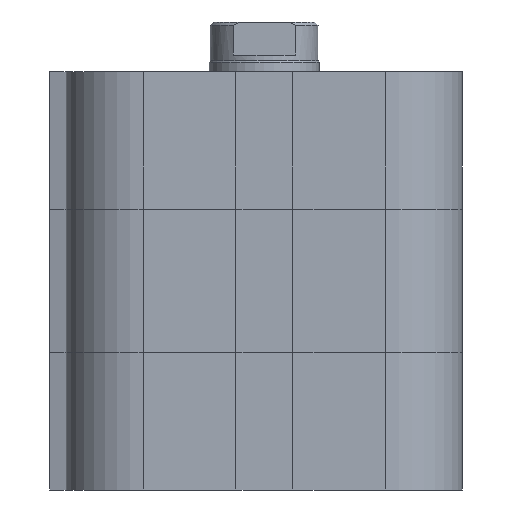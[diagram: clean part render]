
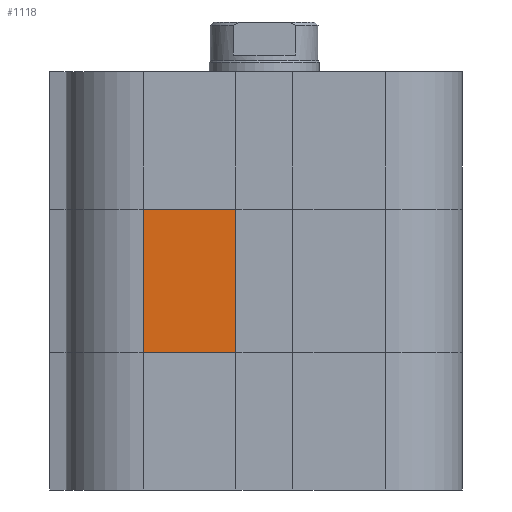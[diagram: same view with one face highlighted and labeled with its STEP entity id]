
A CAD part, left-side view. The second image highlights one B-rep face of the part: STEP entity #1118.
In plain terms, the highlighted planar face has unit normal (-1, 0, 0).
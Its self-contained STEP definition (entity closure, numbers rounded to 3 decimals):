
#1029=CARTESIAN_POINT('',(-18.,11.0,12.5));
#1030=VERTEX_POINT('',#1029);
#1038=CARTESIAN_POINT('',(-18.,11.0,25.5));
#1039=VERTEX_POINT('',#1038);
#1040=CARTESIAN_POINT('',(-18.,11.0,12.5));
#1041=DIRECTION('',(0.0,0.0,1.0));
#1042=VECTOR('',#1041,13.);
#1043=LINE('',#1040,#1042);
#1044=EDGE_CURVE('',#1030,#1039,#1043,.T.);
#1088=CARTESIAN_POINT('',(-18.0,2.6,0.0));
#1089=DIRECTION('',(-1.0,0.0,0.0));
#1090=DIRECTION('',(0.0,0.0,1.0));
#1091=AXIS2_PLACEMENT_3D('',#1088,#1089,#1090);
#1092=PLANE('',#1091);
#1093=CARTESIAN_POINT('',(-18.0,2.6,12.5));
#1094=VERTEX_POINT('',#1093);
#1095=CARTESIAN_POINT('',(-18.,11.0,12.5));
#1096=DIRECTION('',(0.0,-1.0,0.0));
#1097=VECTOR('',#1096,8.4);
#1098=LINE('',#1095,#1097);
#1099=EDGE_CURVE('',#1030,#1094,#1098,.T.);
#1100=ORIENTED_EDGE('',*,*,#1099,.T.);
#1101=CARTESIAN_POINT('',(-18.0,2.6,25.5));
#1102=VERTEX_POINT('',#1101);
#1103=CARTESIAN_POINT('',(-18.0,2.6,12.5));
#1104=DIRECTION('',(0.0,0.0,1.0));
#1105=VECTOR('',#1104,13.);
#1106=LINE('',#1103,#1105);
#1107=EDGE_CURVE('',#1094,#1102,#1106,.T.);
#1108=ORIENTED_EDGE('',*,*,#1107,.T.);
#1109=CARTESIAN_POINT('',(-18.,11.0,25.5));
#1110=DIRECTION('',(0.0,-1.0,0.0));
#1111=VECTOR('',#1110,8.4);
#1112=LINE('',#1109,#1111);
#1113=EDGE_CURVE('',#1039,#1102,#1112,.T.);
#1114=ORIENTED_EDGE('',*,*,#1113,.F.);
#1115=ORIENTED_EDGE('',*,*,#1044,.F.);
#1116=EDGE_LOOP('',(#1100,#1108,#1114,#1115));
#1117=FACE_OUTER_BOUND('',#1116,.T.);
#1118=ADVANCED_FACE('',(#1117),#1092,.T.);
